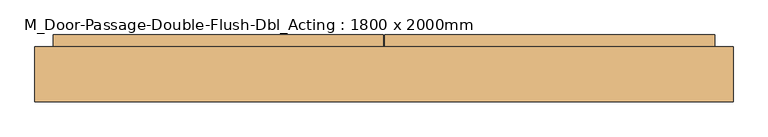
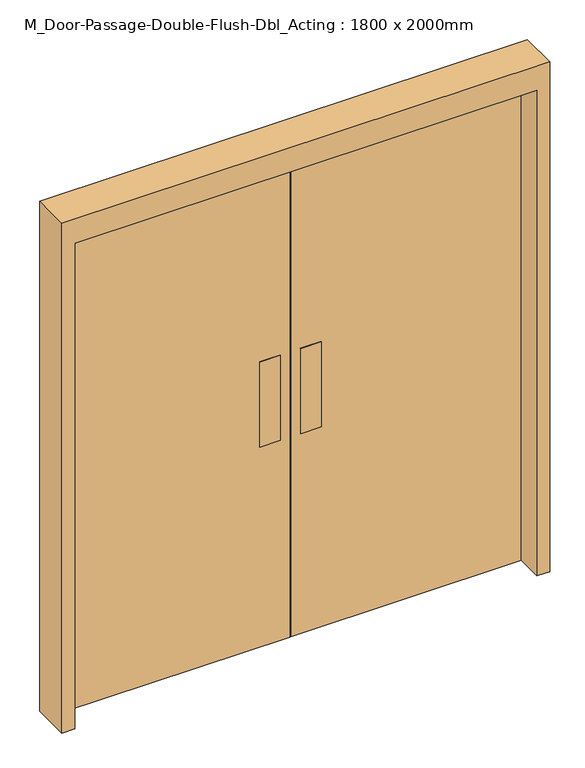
"""IFC4 building model written with IfcOpenShell, lengths in millimetres: door geometry, M_Door-Passage-Double-Flush-Dbl_Acting : 1800 x 2000mm."""

from ifc_helpers import new_model, si_unit, frame, origin, origin_with_axes, place, context, project, spatial, polyline, outline, extrude, source, transform, mapped, element, save


def m_door_passage_double_flush_dbl_acting_1800_x_2000mm_08d7c2af(model_context):
    return source(origin(), model_context, "Body", "SweptSolid", [
        extrude(outline(polyline([(-40.0, 2.425), (-120.0, 2.425), (-120.0, 5.6), (-40.0, 5.6), (-40.0, 2.425)])), frame((0.0, 0.0, 825.0), z_axis=(0.0, 0.0, 1.0), x_axis=(1.0, 0.0, 0.0)), (0.0, 0.0, 1.0), 350.0),
        extrude(outline(polyline([(-40.0, 53.775), (-40.0, 50.6), (-120.0, 50.6), (-120.0, 53.775), (-40.0, 53.775)])), frame((0.0, 0.0, 825.0), z_axis=(0.0, 0.0, 1.0), x_axis=(1.0, 0.0, 0.0)), (0.0, 0.0, 1.0), 350.0),
        extrude(outline(polyline([(40.0, 2.425), (40.0, 5.6), (120.0, 5.6), (120.0, 2.425), (40.0, 2.425)])), frame((0.0, 0.0, 825.0), z_axis=(0.0, 0.0, 1.0), x_axis=(1.0, 0.0, 0.0)), (0.0, 0.0, 1.0), 350.0),
        extrude(outline(polyline([(40.0, 53.775), (120.0, 53.775), (120.0, 50.6), (40.0, 50.6), (40.0, 53.775)])), frame((0.0, 0.0, 825.0), z_axis=(0.0, 0.0, 1.0), x_axis=(1.0, 0.0, 0.0)), (0.0, 0.0, 1.0), 350.0),
        extrude(outline(polyline([(0.0, 900.0), (0.0, 950.0), (2100.0, 950.0), (2100.0, -950.0), (0.0, -950.0), (0.0, -900.0), (2000.0, -900.0), (2000.0, 900.0), (0.0, 900.0)])), frame((0.0, -99.4, 0.0), z_axis=(0.0, 1.0, 0.0), x_axis=(0.0, 0.0, 1.0)), (0.0, 0.0, 1.0), 150.0),
        extrude(outline(polyline([(900.0, 5.6), (1.5875, 5.6), (1.5875, 82.95), (900.0, 82.95), (900.0, 5.6)])), origin_with_axes(), (0.0, 0.0, 1.0), 2000.0),
        extrude(outline(polyline([(-1.5875, 5.6), (-900.0, 5.6), (-900.0, 82.95), (-1.5875, 82.95), (-1.5875, 5.6)])), origin_with_axes(), (0.0, 0.0, 1.0), 2000.0),
    ])


if __name__ == "__main__":
    model = new_model("IFC4")
    model_context = context("Model", 3, world=origin())
    ifc_project = project(units=[si_unit("LENGTHUNIT", "METRE", prefix="MILLI")], contexts=[model_context])
    site = spatial("IfcSite", under=ifc_project)
    building = spatial("IfcBuilding", under=site)
    placement = place(None, origin())
    m_door_passage_double_flush_dbl_acting_1800_x_2000mm_shape = m_door_passage_double_flush_dbl_acting_1800_x_2000mm_08d7c2af(model_context)
    element("IfcDoor", 1, ObjectType="M_Door-Passage-Double-Flush-Dbl_Acting : 1800 x 2000mm", at=placement, inside=building, context=model_context, shape_type="MappedRepresentation", body=[
        mapped(m_door_passage_double_flush_dbl_acting_1800_x_2000mm_shape, transform((0.0, 0.0, 0.0), x_axis=(1.0, 0.0, 0.0), y_axis=(0.0, 1.0, 0.0), z_axis=(0.0, 0.0, 1.0))),
    ])
    save(model, "model.ifc")
